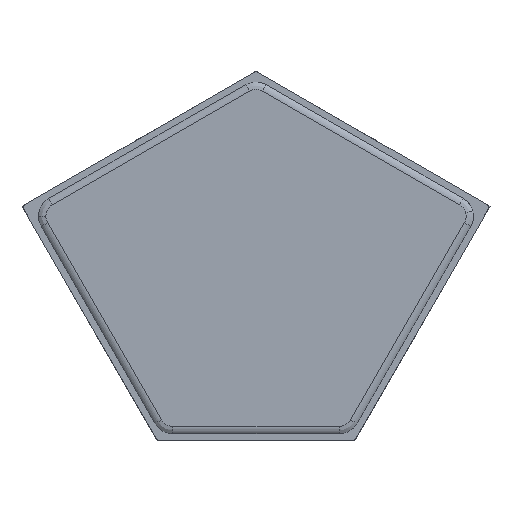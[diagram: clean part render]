
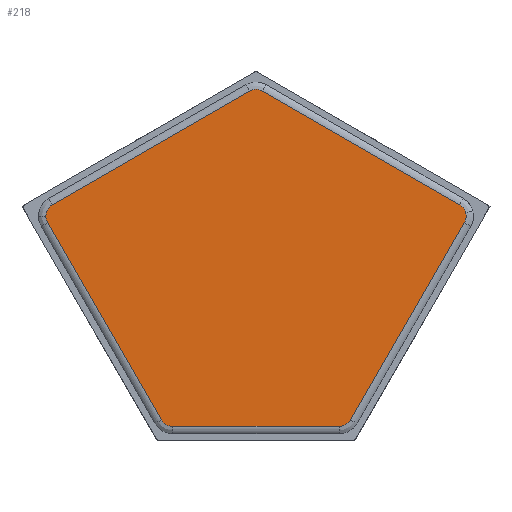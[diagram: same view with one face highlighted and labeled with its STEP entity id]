
A CAD part, top view. The second image highlights one B-rep face of the part: STEP entity #218.
In plain terms, the highlighted planar face has unit normal (0, 0, 1).
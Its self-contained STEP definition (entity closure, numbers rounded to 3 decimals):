
#218=ADVANCED_FACE('',(#442),#3634,.T.);
#442=FACE_OUTER_BOUND('',#686,.T.);
#686=EDGE_LOOP('',(#1608,#1609,#1610,#1611,#1612,#1613,#1614,#1615,#1616,
#1617,#1618,#1619));
#1608=ORIENTED_EDGE('',*,*,#2351,.F.);
#1609=ORIENTED_EDGE('',*,*,#2350,.F.);
#1610=ORIENTED_EDGE('',*,*,#2358,.T.);
#1611=ORIENTED_EDGE('',*,*,#2361,.T.);
#1612=ORIENTED_EDGE('',*,*,#2348,.T.);
#1613=ORIENTED_EDGE('',*,*,#2366,.T.);
#1614=ORIENTED_EDGE('',*,*,#2369,.T.);
#1615=ORIENTED_EDGE('',*,*,#2374,.F.);
#1616=ORIENTED_EDGE('',*,*,#2373,.F.);
#1617=ORIENTED_EDGE('',*,*,#2378,.T.);
#1618=ORIENTED_EDGE('',*,*,#2381,.T.);
#1619=ORIENTED_EDGE('',*,*,#2383,.T.);
#2348=EDGE_CURVE('',#3363,#3364,#2998,.T.);
#2350=EDGE_CURVE('',#3361,#3371,#2630,.T.);
#2351=EDGE_CURVE('',#3371,#3360,#2631,.T.);
#2358=EDGE_CURVE('',#3361,#3362,#3000,.T.);
#2361=EDGE_CURVE('',#3362,#3363,#2639,.T.);
#2366=EDGE_CURVE('',#3364,#3365,#2643,.T.);
#2369=EDGE_CURVE('',#3365,#3366,#3003,.T.);
#2373=EDGE_CURVE('',#3367,#3381,#2648,.T.);
#2374=EDGE_CURVE('',#3381,#3366,#2649,.T.);
#2378=EDGE_CURVE('',#3367,#3368,#3005,.T.);
#2381=EDGE_CURVE('',#3368,#3369,#2654,.T.);
#2383=EDGE_CURVE('',#3369,#3360,#3007,.T.);
#2630=(
BOUNDED_CURVE()
B_SPLINE_CURVE(2,(#7818,#7819,#7820),.UNSPECIFIED.,.F.,.F.)
B_SPLINE_CURVE_WITH_KNOTS((3,3),(0.,6.732),.UNSPECIFIED.)
CURVE()
GEOMETRIC_REPRESENTATION_ITEM()
RATIONAL_B_SPLINE_CURVE((1.,0.966,1.))
REPRESENTATION_ITEM('')
);
#2631=(
BOUNDED_CURVE()
B_SPLINE_CURVE(2,(#7821,#7822,#7823),.UNSPECIFIED.,.F.,.F.)
B_SPLINE_CURVE_WITH_KNOTS((3,3),(6.732,20.197),
 .UNSPECIFIED.)
CURVE()
GEOMETRIC_REPRESENTATION_ITEM()
RATIONAL_B_SPLINE_CURVE((1.,0.866,1.))
REPRESENTATION_ITEM('')
);
#2639=(
BOUNDED_CURVE()
B_SPLINE_CURVE(2,(#7849,#7850,#7851),.UNSPECIFIED.,.F.,.F.)
B_SPLINE_CURVE_WITH_KNOTS((3,3),(-13.465,0.),.UNSPECIFIED.)
CURVE()
GEOMETRIC_REPRESENTATION_ITEM()
RATIONAL_B_SPLINE_CURVE((1.,0.866,1.))
REPRESENTATION_ITEM('')
);
#2643=(
BOUNDED_CURVE()
B_SPLINE_CURVE(2,(#7863,#7864,#7865),.UNSPECIFIED.,.F.,.F.)
B_SPLINE_CURVE_WITH_KNOTS((3,3),(-13.465,0.),.UNSPECIFIED.)
CURVE()
GEOMETRIC_REPRESENTATION_ITEM()
RATIONAL_B_SPLINE_CURVE((1.,0.866,1.))
REPRESENTATION_ITEM('')
);
#2648=(
BOUNDED_CURVE()
B_SPLINE_CURVE(2,(#7882,#7883,#7884),.UNSPECIFIED.,.F.,.F.)
B_SPLINE_CURVE_WITH_KNOTS((3,3),(0.,10.099),.UNSPECIFIED.)
CURVE()
GEOMETRIC_REPRESENTATION_ITEM()
RATIONAL_B_SPLINE_CURVE((1.,0.924,1.))
REPRESENTATION_ITEM('')
);
#2649=(
BOUNDED_CURVE()
B_SPLINE_CURVE(2,(#7885,#7886,#7887),.UNSPECIFIED.,.F.,.F.)
B_SPLINE_CURVE_WITH_KNOTS((3,3),(10.099,20.197),
 .UNSPECIFIED.)
CURVE()
GEOMETRIC_REPRESENTATION_ITEM()
RATIONAL_B_SPLINE_CURVE((1.,0.924,1.))
REPRESENTATION_ITEM('')
);
#2654=(
BOUNDED_CURVE()
B_SPLINE_CURVE(2,(#7904,#7905,#7906),.UNSPECIFIED.,.F.,.F.)
B_SPLINE_CURVE_WITH_KNOTS((3,3),(-13.465,0.),.UNSPECIFIED.)
CURVE()
GEOMETRIC_REPRESENTATION_ITEM()
RATIONAL_B_SPLINE_CURVE((1.,0.866,1.))
REPRESENTATION_ITEM('')
);
#2998=B_SPLINE_CURVE_WITH_KNOTS('',1,(#7813,#7814),.UNSPECIFIED.,.F.,.F.,
(2,2),(0.,162.978),.UNSPECIFIED.);
#3000=B_SPLINE_CURVE_WITH_KNOTS('',1,(#7841,#7842),.UNSPECIFIED.,.F.,.F.,
(2,2),(-222.632,0.),.UNSPECIFIED.);
#3003=B_SPLINE_CURVE_WITH_KNOTS('',1,(#7871,#7872),.UNSPECIFIED.,.F.,.F.,
(2,2),(-222.632,0.),.UNSPECIFIED.);
#3005=B_SPLINE_CURVE_WITH_KNOTS('',1,(#7896,#7897),.UNSPECIFIED.,.F.,.F.,
(2,2),(-222.632,0.),.UNSPECIFIED.);
#3007=B_SPLINE_CURVE_WITH_KNOTS('',1,(#7909,#7910),.UNSPECIFIED.,.F.,.F.,
(2,2),(-222.632,0.),.UNSPECIFIED.);
#3360=VERTEX_POINT('',#7720);
#3361=VERTEX_POINT('',#7721);
#3362=VERTEX_POINT('',#7722);
#3363=VERTEX_POINT('',#7723);
#3364=VERTEX_POINT('',#7724);
#3365=VERTEX_POINT('',#7725);
#3366=VERTEX_POINT('',#7726);
#3367=VERTEX_POINT('',#7727);
#3368=VERTEX_POINT('',#7728);
#3369=VERTEX_POINT('',#7729);
#3371=VERTEX_POINT('',#7731);
#3381=VERTEX_POINT('',#7741);
#3634=PLANE('',#3883);
#3883=AXIS2_PLACEMENT_3D('',#6097,#4067,$);
#4067=DIRECTION('',(0.,0.,1.));
#6097=CARTESIAN_POINT('',(-254.704,-284.623,11.077));
#7720=CARTESIAN_POINT('',(-201.375,-34.522,11.077));
#7721=CARTESIAN_POINT('',(-206.081,-52.086,11.077));
#7722=CARTESIAN_POINT('',(-94.766,-244.891,11.077));
#7723=CARTESIAN_POINT('',(-83.63,-251.32,11.077));
#7724=CARTESIAN_POINT('',(79.347,-251.32,11.077));
#7725=CARTESIAN_POINT('',(90.483,-244.891,11.077));
#7726=CARTESIAN_POINT('',(201.799,-52.086,11.077));
#7727=CARTESIAN_POINT('',(197.092,-34.522,11.077));
#7728=CARTESIAN_POINT('',(4.288,76.794,11.077));
#7729=CARTESIAN_POINT('',(-8.57,76.794,11.077));
#7731=CARTESIAN_POINT('',(-207.804,-45.657,11.077));
#7741=CARTESIAN_POINT('',(203.083,-42.33,11.077));
#7813=CARTESIAN_POINT('',(-83.63,-251.32,11.077));
#7814=CARTESIAN_POINT('',(79.347,-251.32,11.077));
#7818=CARTESIAN_POINT('',(-206.081,-52.086,11.077));
#7819=CARTESIAN_POINT('',(-207.804,-49.103,11.077));
#7820=CARTESIAN_POINT('',(-207.804,-45.657,11.077));
#7821=CARTESIAN_POINT('',(-207.804,-45.657,11.077));
#7822=CARTESIAN_POINT('',(-207.804,-38.234,11.077));
#7823=CARTESIAN_POINT('',(-201.375,-34.522,11.077));
#7841=CARTESIAN_POINT('',(-206.081,-52.086,11.077));
#7842=CARTESIAN_POINT('',(-94.766,-244.891,11.077));
#7849=CARTESIAN_POINT('',(-94.766,-244.891,11.077));
#7850=CARTESIAN_POINT('',(-91.054,-251.32,11.077));
#7851=CARTESIAN_POINT('',(-83.63,-251.32,11.077));
#7863=CARTESIAN_POINT('',(79.347,-251.32,11.077));
#7864=CARTESIAN_POINT('',(86.771,-251.32,11.077));
#7865=CARTESIAN_POINT('',(90.483,-244.891,11.077));
#7871=CARTESIAN_POINT('',(90.483,-244.891,11.077));
#7872=CARTESIAN_POINT('',(201.799,-52.086,11.077));
#7882=CARTESIAN_POINT('',(197.092,-34.522,11.077));
#7883=CARTESIAN_POINT('',(201.705,-37.185,11.077));
#7884=CARTESIAN_POINT('',(203.083,-42.33,11.077));
#7885=CARTESIAN_POINT('',(203.083,-42.33,11.077));
#7886=CARTESIAN_POINT('',(204.462,-47.474,11.077));
#7887=CARTESIAN_POINT('',(201.799,-52.086,11.077));
#7896=CARTESIAN_POINT('',(197.092,-34.522,11.077));
#7897=CARTESIAN_POINT('',(4.288,76.794,11.077));
#7904=CARTESIAN_POINT('',(4.288,76.794,11.077));
#7905=CARTESIAN_POINT('',(-2.141,80.505,11.077));
#7906=CARTESIAN_POINT('',(-8.57,76.794,11.077));
#7909=CARTESIAN_POINT('',(-8.57,76.794,11.077));
#7910=CARTESIAN_POINT('',(-201.375,-34.522,11.077));
